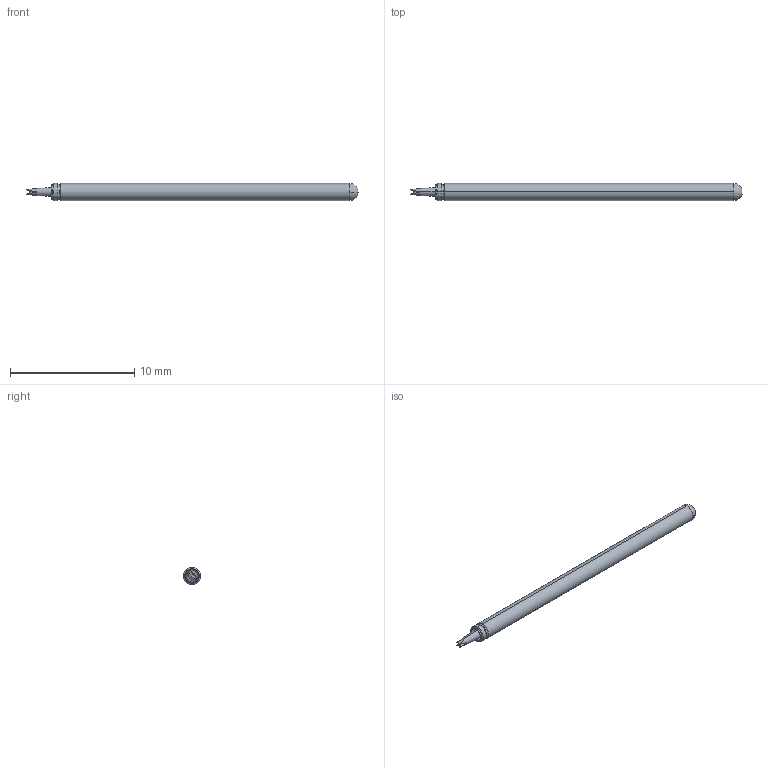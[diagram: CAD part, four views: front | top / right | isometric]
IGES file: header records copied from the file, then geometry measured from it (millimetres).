
Start section: SolidWorks IGES file using analytic representation for surfaces
Global section: file name: Z:\probe solid model mockups\Solidworks models\POGO-25 IGS files\POGO-25L18 Full.IGS; native system: SolidWorks 2006 by SolidWorks Corporation; preprocessor: SolidWorks 2006 by SolidWorks Corporation; author: tsakatani; date: 071214.092859; units: inch
Bounding box: 26.67 x 1.37 x 1.37 mm (x, y, z)
Surface area: 121.7 mm2 (no closed solid volume)
Topology: 0 solids, 0 shells, 29 faces, 202 edges, 202 vertices
Faces by surface type: bspline 15, revolution 14
